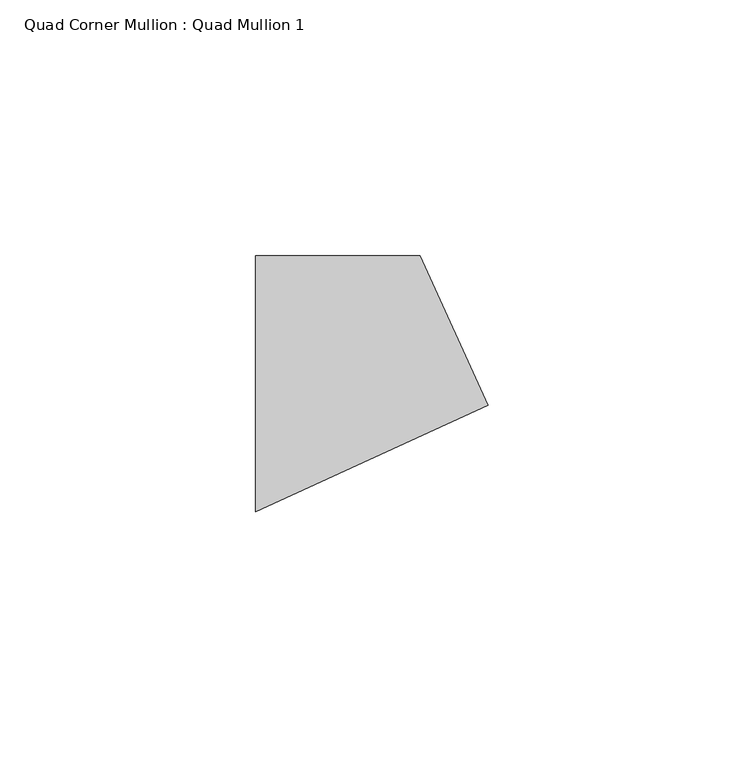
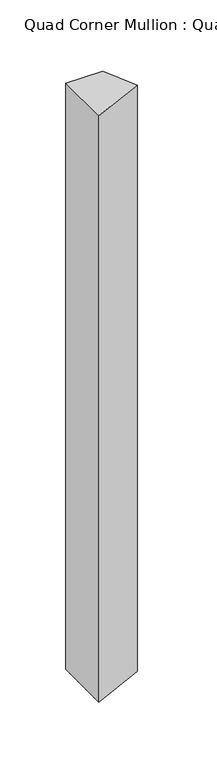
"""IFC4 building model written with IfcOpenShell, lengths in millimetres: member geometry, Quad Corner Mullion : Quad Mullion 1."""

from ifc_helpers import new_model, si_unit, frame, origin, place, context, project, spatial, polyline, outline, extrude, source, transform, mapped, element, save


def quad_corner_mullion_quad_mullion_1_7e3ea3a6(model_context):
    return source(origin(), model_context, "Body", "SweptSolid", [
        extrude(outline(polyline([(29.4125559, -4.1926582), (-16.0523154, -25.0), (-16.0523154, 25.0), (16.0523154, 25.0), (29.4125559, -4.1926582)])), frame((0.0, 0.0, -542.3366684), z_axis=(0.0, 0.0, 1.0), x_axis=(1.0, 0.0, 0.0)), (0.0, 0.0, 1.0), 542.3366684),
    ])


if __name__ == "__main__":
    model = new_model("IFC4")
    model_context = context("Model", 3, world=origin())
    ifc_project = project(units=[si_unit("LENGTHUNIT", "METRE", prefix="MILLI")], contexts=[model_context])
    site = spatial("IfcSite", under=ifc_project)
    building = spatial("IfcBuilding", under=site)
    placement = place(None, origin())
    quad_corner_mullion_quad_mullion_1_shape = quad_corner_mullion_quad_mullion_1_7e3ea3a6(model_context)
    element("IfcMember", 1, ObjectType="Quad Corner Mullion : Quad Mullion 1", at=placement, inside=building, context=model_context, shape_type="MappedRepresentation", body=[
        mapped(quad_corner_mullion_quad_mullion_1_shape, transform((0.0, 0.0, 0.0), x_axis=(1.0, 0.0, 0.0), y_axis=(0.0, 1.0, 0.0), z_axis=(0.0, 0.0, 1.0))),
    ])
    save(model, "model.ifc")
